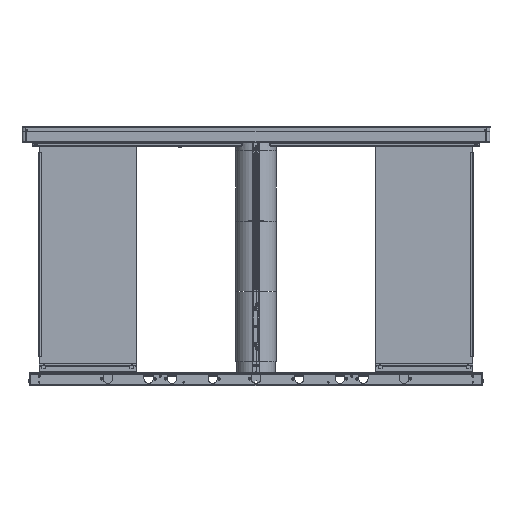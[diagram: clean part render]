
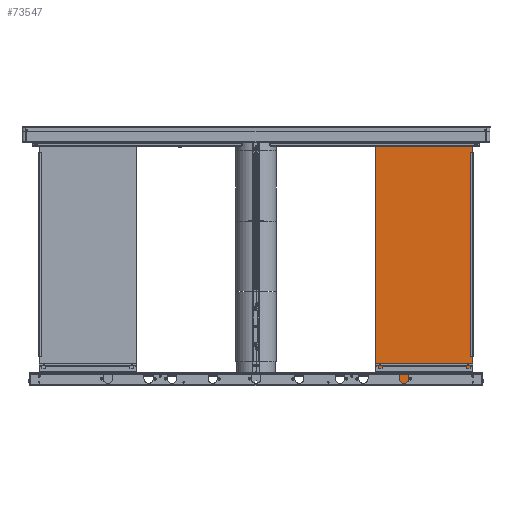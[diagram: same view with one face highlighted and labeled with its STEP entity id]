
A CAD part, top view. The second image highlights one B-rep face of the part: STEP entity #73547.
In plain terms, the highlighted planar face has unit normal (0, 0, 1) as drawn and (0, 0, -1) by its records, which use the part's own axes.
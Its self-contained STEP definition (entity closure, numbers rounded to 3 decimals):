
#944 = EDGE_LOOP ( 'NONE', ( #6074, #53566 ) ) ;
#948 = CARTESIAN_POINT ( 'NONE',  ( -117.5, -427., -6. ) ) ;
#1374 = CARTESIAN_POINT ( 'NONE',  ( 0., -427., -6. ) ) ;
#1484 = EDGE_CURVE ( 'NONE', #13002, #71699, #25072, .T. ) ;
#1591 = CARTESIAN_POINT ( 'NONE',  ( -7.5, -427., -6. ) ) ;
#4011 = LINE ( 'NONE', #56842, #71250 ) ;
#4298 = AXIS2_PLACEMENT_3D ( 'NONE', #1374, #47304, #66625 ) ;
#6074 = ORIENTED_EDGE ( 'NONE', *, *, #53047, .T. ) ;
#6812 = DIRECTION ( 'NONE',  ( 0., 0., 1. ) ) ;
#6861 = ORIENTED_EDGE ( 'NONE', *, *, #1484, .T. ) ;
#7533 = DIRECTION ( 'NONE',  ( 0., 0., 1. ) ) ;
#7754 = CARTESIAN_POINT ( 'NONE',  ( 125., -427., -6. ) ) ;
#10654 = CARTESIAN_POINT ( 'NONE',  ( 0., -427., -6. ) ) ;
#11830 = CARTESIAN_POINT ( 'NONE',  ( 125., -427., -6. ) ) ;
#12782 = CARTESIAN_POINT ( 'NONE',  ( -184., -457., -6. ) ) ;
#13002 = VERTEX_POINT ( 'NONE', #12782 ) ;
#13275 = FACE_OUTER_BOUND ( 'NONE', #83653, .T. ) ;
#14913 = CARTESIAN_POINT ( 'NONE',  ( -185., -457., -6. ) ) ;
#18735 = VERTEX_POINT ( 'NONE', #1591 ) ;
#19085 = EDGE_CURVE ( 'NONE', #62968, #75488, #59302, .T. ) ;
#20551 = CIRCLE ( 'NONE', #61683, 7.5 ) ;
#21001 = CARTESIAN_POINT ( 'NONE',  ( 7.5, -427., -6. ) ) ;
#22127 = ORIENTED_EDGE ( 'NONE', *, *, #75133, .T. ) ;
#23140 = LINE ( 'NONE', #48049, #23561 ) ;
#23561 = VECTOR ( 'NONE', #74269, 1000. ) ;
#25072 = LINE ( 'NONE', #38382, #60851 ) ;
#25454 = EDGE_CURVE ( 'NONE', #54157, #84261, #50398, .T. ) ;
#26242 = DIRECTION ( 'NONE',  ( 0., 0., 1. ) ) ;
#29661 = CARTESIAN_POINT ( 'NONE',  ( 184., -457., -6. ) ) ;
#30481 = EDGE_LOOP ( 'NONE', ( #76179, #38721 ) ) ;
#31172 = CARTESIAN_POINT ( 'NONE',  ( -184., 457., -6. ) ) ;
#31204 = CARTESIAN_POINT ( 'NONE',  ( 117.5, -427., -6. ) ) ;
#33437 = EDGE_CURVE ( 'NONE', #75488, #62968, #20551, .T. ) ;
#35729 = CARTESIAN_POINT ( 'NONE',  ( 184., 457., -6. ) ) ;
#38027 = DIRECTION ( 'NONE',  ( 0., 0., 1. ) ) ;
#38382 = CARTESIAN_POINT ( 'NONE',  ( -184., -457.5, -6. ) ) ;
#38516 = VERTEX_POINT ( 'NONE', #35729 ) ;
#38721 = ORIENTED_EDGE ( 'NONE', *, *, #33437, .T. ) ;
#39452 = AXIS2_PLACEMENT_3D ( 'NONE', #59074, #7533, #52203 ) ;
#44787 = DIRECTION ( 'NONE',  ( 1., 0., 0. ) ) ;
#45697 = DIRECTION ( 'NONE',  ( 1., 0., 0. ) ) ;
#46044 = DIRECTION ( 'NONE',  ( 0., 0., 1. ) ) ;
#47234 = EDGE_CURVE ( 'NONE', #71699, #38516, #23140, .T. ) ;
#47304 = DIRECTION ( 'NONE',  ( 0., 0., 1. ) ) ;
#47671 = AXIS2_PLACEMENT_3D ( 'NONE', #52069, #46044, #44787 ) ;
#48049 = CARTESIAN_POINT ( 'NONE',  ( -185., 457., -6. ) ) ;
#48179 = VECTOR ( 'NONE', #67700, 1000. ) ;
#49184 = LINE ( 'NONE', #14913, #48179 ) ;
#50398 = CIRCLE ( 'NONE', #39452, 7.5 ) ;
#52069 = CARTESIAN_POINT ( 'NONE',  ( -125., -427., -6. ) ) ;
#52203 = DIRECTION ( 'NONE',  ( 1., 0., 0. ) ) ;
#52351 = FACE_BOUND ( 'NONE', #30481, .T. ) ;
#53047 = EDGE_CURVE ( 'NONE', #84261, #54157, #84769, .T. ) ;
#53566 = ORIENTED_EDGE ( 'NONE', *, *, #25454, .T. ) ;
#54157 = VERTEX_POINT ( 'NONE', #948 ) ;
#54416 = EDGE_LOOP ( 'NONE', ( #73922, #64943 ) ) ;
#55050 = CIRCLE ( 'NONE', #4298, 7.5 ) ;
#56842 = CARTESIAN_POINT ( 'NONE',  ( 184., -457.5, -6. ) ) ;
#59074 = CARTESIAN_POINT ( 'NONE',  ( -125., -427., -6. ) ) ;
#59302 = CIRCLE ( 'NONE', #78497, 7.5 ) ;
#60244 = VERTEX_POINT ( 'NONE', #29661 ) ;
#60851 = VECTOR ( 'NONE', #64997, 1000. ) ;
#61683 = AXIS2_PLACEMENT_3D ( 'NONE', #7754, #26242, #65323 ) ;
#62326 = ORIENTED_EDGE ( 'NONE', *, *, #47234, .T. ) ;
#62968 = VERTEX_POINT ( 'NONE', #31204 ) ;
#64652 = CARTESIAN_POINT ( 'NONE',  ( -132.5, -427., -6. ) ) ;
#64741 = DIRECTION ( 'NONE',  ( 0., 0., 1. ) ) ;
#64943 = ORIENTED_EDGE ( 'NONE', *, *, #67180, .T. ) ;
#64997 = DIRECTION ( 'NONE',  ( 0., 1., 0. ) ) ;
#65323 = DIRECTION ( 'NONE',  ( 1., 0., 0. ) ) ;
#65663 = CARTESIAN_POINT ( 'NONE',  ( -185., -457.5, -6. ) ) ;
#66625 = DIRECTION ( 'NONE',  ( 1., 0., 0. ) ) ;
#67011 = VERTEX_POINT ( 'NONE', #21001 ) ;
#67180 = EDGE_CURVE ( 'NONE', #67011, #18735, #72252, .T. ) ;
#67700 = DIRECTION ( 'NONE',  ( -1., 0., 0. ) ) ;
#71250 = VECTOR ( 'NONE', #74909, 1000. ) ;
#71699 = VERTEX_POINT ( 'NONE', #31172 ) ;
#72093 = EDGE_CURVE ( 'NONE', #38516, #60244, #4011, .T. ) ;
#72113 = FACE_BOUND ( 'NONE', #944, .T. ) ;
#72252 = CIRCLE ( 'NONE', #84641, 7.5 ) ;
#73547 = ADVANCED_FACE ( 'NONE', ( #52351, #84638, #72113, #13275 ), #78984, .F. ) ;
#73922 = ORIENTED_EDGE ( 'NONE', *, *, #74963, .T. ) ;
#74269 = DIRECTION ( 'NONE',  ( 1., 0., 0. ) ) ;
#74909 = DIRECTION ( 'NONE',  ( 0., -1., 0. ) ) ;
#74963 = EDGE_CURVE ( 'NONE', #18735, #67011, #55050, .T. ) ;
#75133 = EDGE_CURVE ( 'NONE', #60244, #13002, #49184, .T. ) ;
#75420 = AXIS2_PLACEMENT_3D ( 'NONE', #65663, #6812, #79417 ) ;
#75488 = VERTEX_POINT ( 'NONE', #79642 ) ;
#76179 = ORIENTED_EDGE ( 'NONE', *, *, #19085, .T. ) ;
#78497 = AXIS2_PLACEMENT_3D ( 'NONE', #11830, #38027, #45697 ) ;
#78984 = PLANE ( 'NONE',  #75420 ) ;
#79417 = DIRECTION ( 'NONE',  ( 1., 0., 0. ) ) ;
#79642 = CARTESIAN_POINT ( 'NONE',  ( 132.5, -427., -6. ) ) ;
#81696 = ORIENTED_EDGE ( 'NONE', *, *, #72093, .T. ) ;
#83653 = EDGE_LOOP ( 'NONE', ( #6861, #62326, #81696, #22127 ) ) ;
#83670 = DIRECTION ( 'NONE',  ( 1., 0., 0. ) ) ;
#84261 = VERTEX_POINT ( 'NONE', #64652 ) ;
#84638 = FACE_BOUND ( 'NONE', #54416, .T. ) ;
#84641 = AXIS2_PLACEMENT_3D ( 'NONE', #10654, #64741, #83670 ) ;
#84769 = CIRCLE ( 'NONE', #47671, 7.5 ) ;
